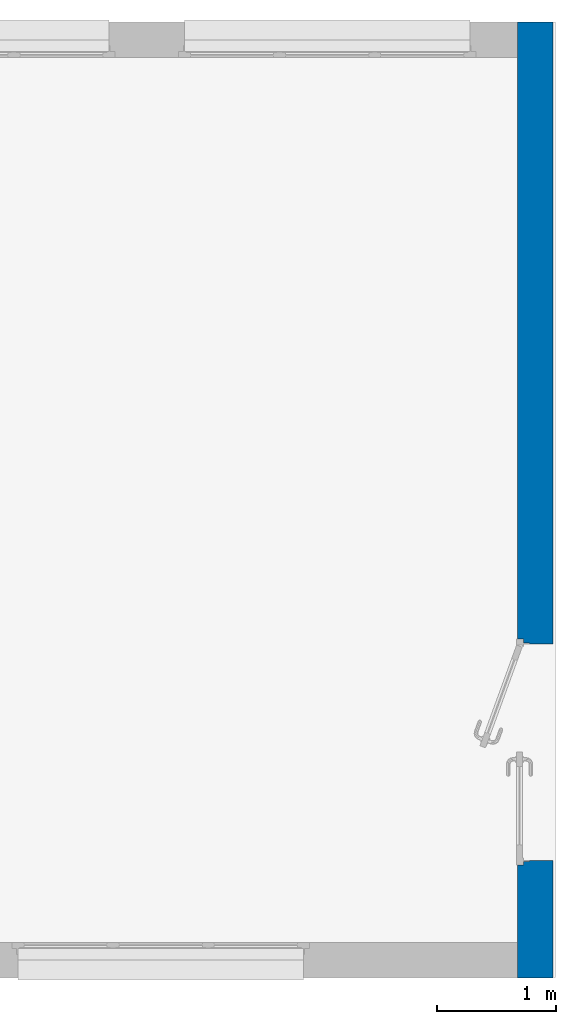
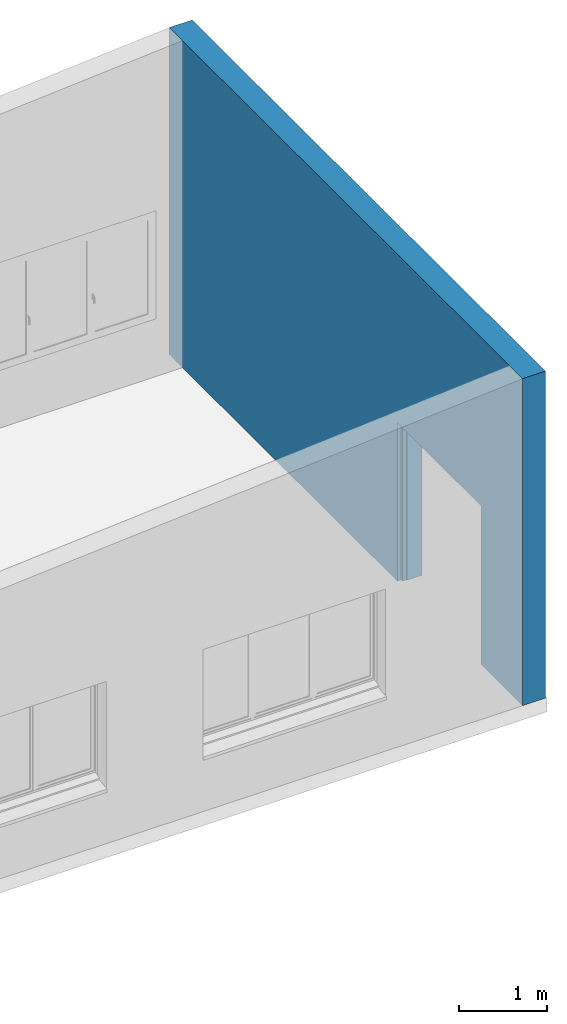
# One storey, part 8 of 8: 1 wall, 1 opening.
"""IFC2X3 building model written with IfcOpenShell, lengths in metres."""

from ifc_helpers import new_model, entity, si_unit, converted_unit, derived_unit, direction, frame, frame_2d, origin, place, context, subcontext, project, spatial, rectangle, extrude, faceted_brep, material, layer, layer_set, layer_usage, type_object, element, save


model = new_model("IFC2X3")

# Units and contexts
model_context = context("Model", 3, precision=1e-05, world=origin(), true_north=direction((6.12303176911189e-17, 1.0)))
body_context = subcontext(model_context, "Body", "Model", "MODEL_VIEW")
ifc_project = project(units=[si_unit("LENGTHUNIT", "METRE"), si_unit("AREAUNIT", "SQUARE_METRE"), si_unit("VOLUMEUNIT", "CUBIC_METRE"), converted_unit("PLANEANGLEUNIT", "DEGREE", entity("IfcRatioMeasure", 0.0174532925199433), si_unit("PLANEANGLEUNIT", "RADIAN"), dimensions=[0, 0, 0, 0, 0, 0, 0]), si_unit("MASSUNIT", "GRAM", prefix="KILO"), derived_unit("MASSDENSITYUNIT", [(si_unit("MASSUNIT", "GRAM", prefix="KILO"), 1), (si_unit("LENGTHUNIT", "METRE"), -3)]), si_unit("TIMEUNIT", "SECOND"), si_unit("FREQUENCYUNIT", "HERTZ"), si_unit("THERMODYNAMICTEMPERATUREUNIT", "DEGREE_CELSIUS"), derived_unit("THERMALTRANSMITTANCEUNIT", [(si_unit("MASSUNIT", "GRAM", prefix="KILO"), 1), (si_unit("THERMODYNAMICTEMPERATUREUNIT", "KELVIN"), -1), (si_unit("TIMEUNIT", "SECOND"), -3)]), derived_unit("VOLUMETRICFLOWRATEUNIT", [(si_unit("LENGTHUNIT", "METRE"), 3), (si_unit("TIMEUNIT", "SECOND"), -1)]), si_unit("ELECTRICCURRENTUNIT", "AMPERE"), si_unit("ELECTRICVOLTAGEUNIT", "VOLT"), si_unit("POWERUNIT", "WATT"), si_unit("FORCEUNIT", "NEWTON", prefix="KILO"), si_unit("ILLUMINANCEUNIT", "LUX"), si_unit("LUMINOUSFLUXUNIT", "LUMEN"), si_unit("LUMINOUSINTENSITYUNIT", "CANDELA"), derived_unit("USERDEFINED", [(si_unit("MASSUNIT", "GRAM", prefix="KILO"), -1), (si_unit("LENGTHUNIT", "METRE"), -2), (si_unit("TIMEUNIT", "SECOND"), 3), (si_unit("LUMINOUSFLUXUNIT", "LUMEN"), 1)]), derived_unit("LINEARVELOCITYUNIT", [(si_unit("LENGTHUNIT", "METRE"), 1), (si_unit("TIMEUNIT", "SECOND"), -1)]), si_unit("PRESSUREUNIT", "PASCAL"), derived_unit("USERDEFINED", [(si_unit("LENGTHUNIT", "METRE"), -2), (si_unit("MASSUNIT", "GRAM", prefix="KILO"), 1), (si_unit("TIMEUNIT", "SECOND"), -2)])], contexts=[model_context])

# Site, building, storey
site_placement = place(None, origin())
site = spatial("IfcSite", under=ifc_project, at=site_placement, Name="Default", CompositionType="ELEMENT")
building_placement = place(site_placement, origin())
building = spatial("IfcBuilding", under=site, at=building_placement, CompositionType="ELEMENT")
storey_placement = place(building_placement, frame((0.0, 0.0, 3.3)))
storey = spatial("IfcBuildingStorey", under=building, at=storey_placement, Name="Niveau 1", CompositionType="ELEMENT", Elevation=3.3)

# Wall, opening
ifc_material_1 = material(Name="Maçonnerie - Voile BA")
ifc_layer_1 = layer(ifc_material_1, 0.18)
ifc_material_2 = material(Name="Maçonnerie - Isolant")
ifc_layer_2 = layer(ifc_material_2, 0.12)
ifc_layer_set = layer_set([ifc_layer_1, ifc_layer_2], Name="Mur de base:Ext. Voile BA 18 + Isolant 12")
ifc_layer_usage = layer_usage(ifc_layer_set, "AXIS2", "NEGATIVE", 0.15)
wall_type = type_object("IfcWallType", Name="Mur de base:Ext. Voile BA 18 + Isolant 12", PredefinedType="STANDARD", material=ifc_layer_set)
wall_placement = place(storey_placement, frame((12.4304855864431, 3.00911858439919, 0.0), z_axis=(0.0, 0.0, 1.0), x_axis=(0.0, -1.0, 0.0)))
wall = element("IfcWallStandardCase", 1, at=wall_placement, inside=storey, type_object=wall_type, material=ifc_layer_usage, Name="Mur de base:Ext. Voile BA 18 + Isolant 12", ObjectType="Mur de base:Ext. Voile BA 18 + Isolant 12", context=body_context, shape_type="SweptSolid", body=[
    extrude(rectangle(XDim=8.04, YDim=0.300000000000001, at=frame_2d((4.02, 0.0), x_axis=(-1.0, 0.0))), origin(), (0.0, 0.0, 1.0), 4.54000000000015),
])
opening_placement = place(wall_placement, frame((7.09000000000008, -0.450000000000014, 0.0), z_axis=(0.0, 0.0, 1.0), x_axis=(0.0, 1.0, 0.0)))
element("IfcOpeningElement", 2, at=opening_placement, cuts=wall, Name="Mur de base:Ext. Voile BA 18 + Isolant 12", ObjectType="Opening", context=body_context, shape_type="Brep", body=[
    faceted_brep([(0.0, 0.0400000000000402, 2.15999999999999), (0.292000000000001, 0.0400000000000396, 2.15999999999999), (0.292000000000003, 1.86000000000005, 2.15999999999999), (0.0, 1.86000000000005, 2.15999999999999), (0.899999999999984, 0.0400000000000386, 0.0), (0.400000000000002, 0.0400000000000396, 0.0), (0.400000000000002, 0.0300000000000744, 0.0), (0.350000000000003, 0.0300000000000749, 0.0), (0.350000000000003, 0.0, 0.0), (0.292000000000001, 0.0, 0.0), (0.292000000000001, 0.0400000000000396, 0.0), (0.0, 0.0400000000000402, 0.0), (0.0, 1.86000000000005, 0.0), (0.292000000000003, 1.86000000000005, 0.0), (0.292000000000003, 1.90000000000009, 0.0), (0.350000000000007, 1.90000000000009, 0.0), (0.350000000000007, 1.87000000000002, 0.0), (0.400000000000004, 1.87000000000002, 0.0), (0.400000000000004, 1.86000000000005, 0.0), (0.899999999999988, 1.86000000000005, 0.0), (0.899999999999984, 0.0400000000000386, 2.15999999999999), (0.400000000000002, 0.0400000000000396, 2.15999999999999), (0.899999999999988, 1.86000000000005, 2.15999999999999), (0.350000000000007, 1.90000000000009, 2.20000000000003), (0.350000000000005, 0.0, 2.20000000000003), (0.350000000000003, 0.0300000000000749, 2.16999999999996), (0.350000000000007, 1.87000000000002, 2.16999999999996), (0.400000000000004, 1.87000000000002, 2.16999999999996), (0.400000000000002, 0.0300000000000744, 2.16999999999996), (0.400000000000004, 1.86000000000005, 2.15999999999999), (0.291999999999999, 0.0, 2.20000000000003), (0.292000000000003, 1.90000000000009, 2.20000000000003)], [[[0, 1, 2, 3]], [[4, 5, 6, 7, 8, 9, 10, 11, 12, 13, 14, 15, 16, 17, 18, 19]], [[20, 21, 5, 4]], [[20, 4, 19, 22]], [[3, 2, 13, 12]], [[3, 12, 11, 0]], [[15, 23, 24, 8, 7, 25, 26, 16]], [[16, 26, 27, 17]], [[17, 27, 28, 6, 5, 21, 29, 18]], [[13, 2, 1, 10, 9, 30, 31, 14]], [[14, 31, 23, 15]], [[25, 28, 27, 26]], [[23, 31, 30, 24]], [[7, 6, 28, 25]], [[24, 30, 9, 8]], [[19, 18, 29, 22]], [[11, 10, 1, 0]], [[22, 29, 21, 20]]]),
])

save(model, "model.ifc")
